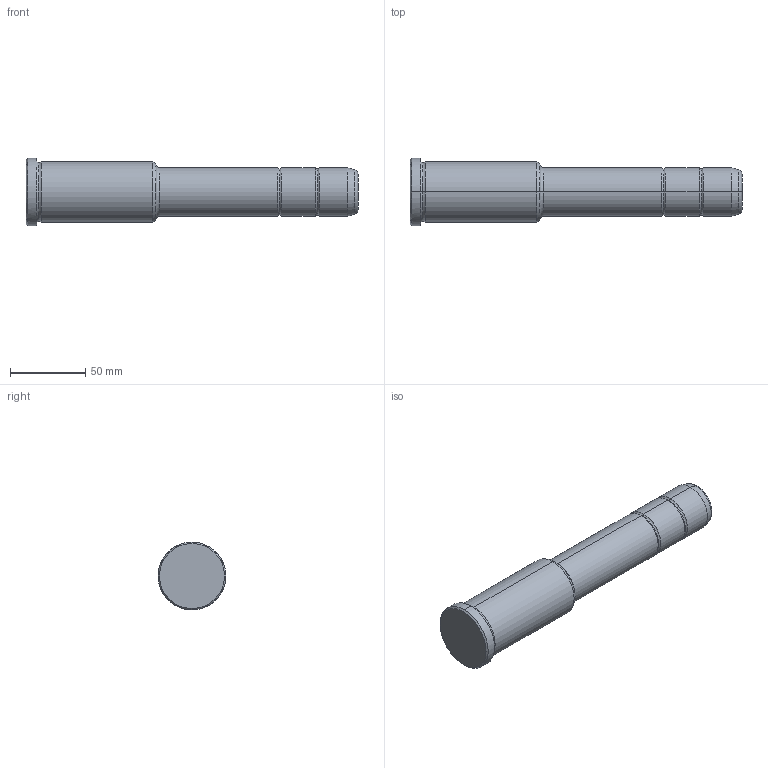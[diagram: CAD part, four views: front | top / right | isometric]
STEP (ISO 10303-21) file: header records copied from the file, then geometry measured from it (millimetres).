
FILE_DESCRIPTION(('CATIA V5 STEP Exchange'),'2;1');
FILE_NAME('C:\Users\Utente\Desktop\IO LAVORO\3D X SITO CF\X SITO\PLASTICA\351\351-32X86X220.stp','2021-09-10T12:25:42+00:00',('none'),('none'),'CATIA Version 5 Release 20 GA (IN-10)','CATIA V5 STEP AP203','none');
FILE_SCHEMA(('CONFIG_CONTROL_DESIGN'));
Length unit declared in the file: millimetre
Products named in the file (1): 351-32X86X220
Bounding box: 220 x 45 x 45 mm (x, y, z)
Volume: 216971.3 mm3; surface area: 27139.7 mm2
Topology: 1 solids, 1 shells, 36 faces, 102 edges, 70 vertices
Faces by surface type: torus 16, cylinder 10, cone 6, plane 4
Entity records: 1292 total; most frequent: CARTESIAN_POINT 321, ORIENTED_EDGE 204, DIRECTION 166, AXIS2_PLACEMENT_3D 115, EDGE_CURVE 102, CIRCLE 78, VERTEX_POINT 70, EDGE_LOOP 38
